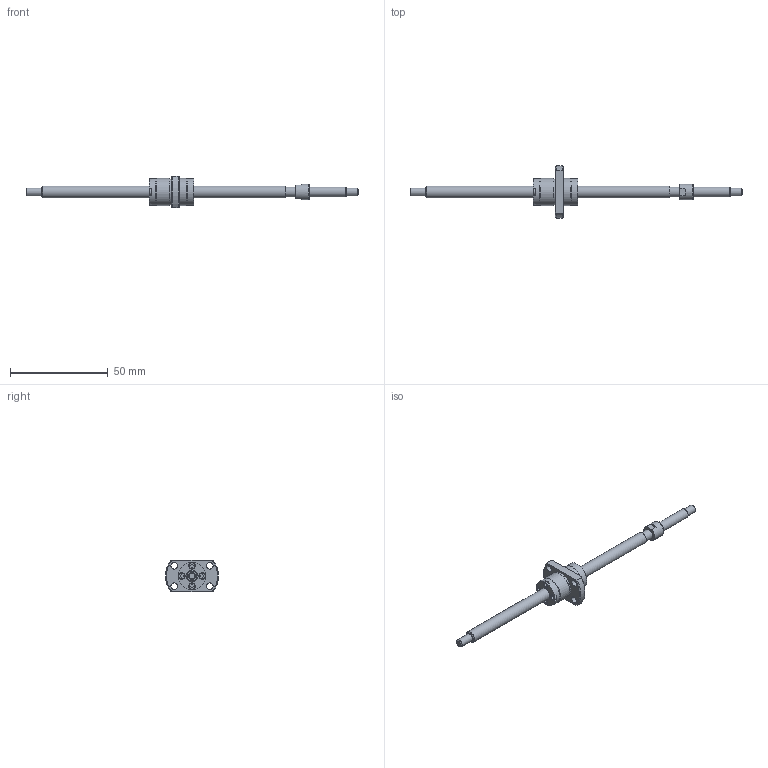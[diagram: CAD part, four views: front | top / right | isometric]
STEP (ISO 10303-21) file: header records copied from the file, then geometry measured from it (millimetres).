
FILE_DESCRIPTION(/* description */ ('STEP AP214'),/* implementation_level */ '2;1');
FILE_NAME(/* name */ 'SG0610-125R170C5C0X(55)',/* time_stamp */ '2026-07-20T20:20:19+02:00',/* author */ ('License CC BY-ND 4.0'),/* organization */ ('CADENAS'),/* preprocessor_version */ 'ST-DEVELOPER v20',/* originating_system */ 'PARTsolutions',/* authorisation */ ' ');
FILE_SCHEMA (('AUTOMOTIVE_DESIGN {1 0 10303 214 3 1 1}'));
Length unit declared in the file: millimetre
Products named in the file (3): SG0610-125R170C5C0X(55); SG0610-125R170C5C_shaft; SG0610 C5_nut
Assembly tree (2 placements, depth 2):
  SG0610-125R170C5C0X(55)
    SG0610-125R170C5C_shaft
    SG0610 C5_nut
Bounding box: 170 x 27 x 16 mm (x, y, z)
Volume: 8192.1 mm3; surface area: 5711.4 mm2
Topology: 2 solids, 2 shells, 102 faces, 232 edges, 152 vertices
Faces by surface type: plane 64, cylinder 26, cone 11, torus 1
Full cylindrical faces by diameter (mm): 3 x4, 3.4 x4, 4 x2, 5 x2, 6 x2, 8 x1, 13.6 x1, 13.8 x2, 14 x2
Entity records: 2811 total; most frequent: CARTESIAN_POINT 481, DIRECTION 478, ORIENTED_EDGE 404, EDGE_CURVE 202, AXIS2_PLACEMENT_3D 179, EDGE_LOOP 158, FACE_BOUND 158, VERTEX_POINT 150
